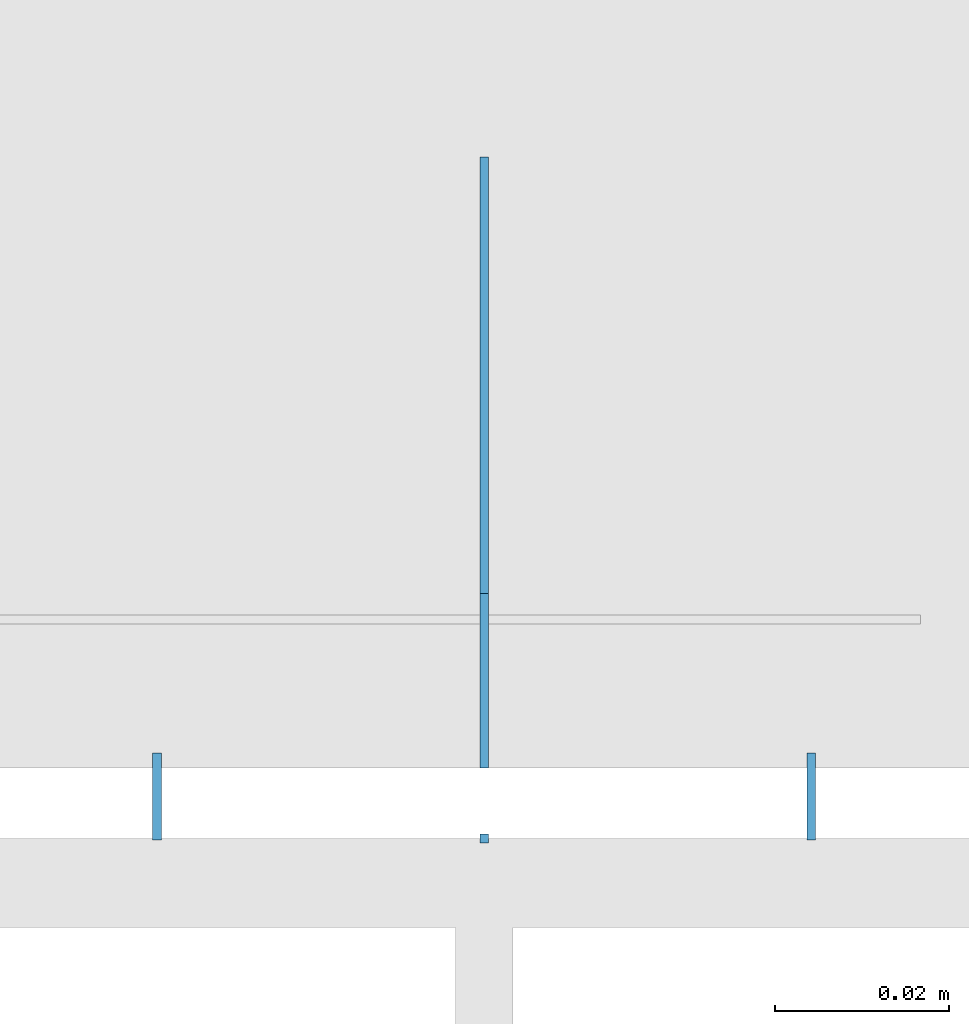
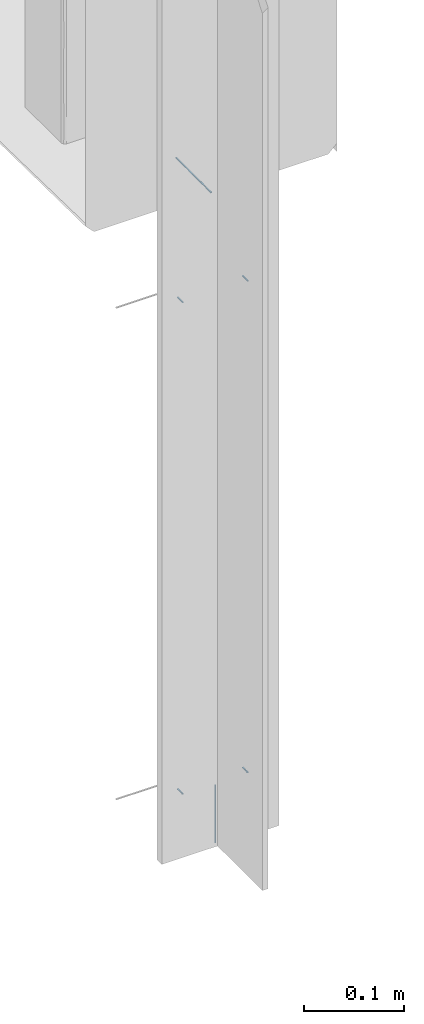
# One storey, part 57 of 186: 7 beams.
"""IFC4X3_ADD2 building model written with IfcOpenShell, lengths in millimetres."""

import ifcopenshell
import ifcopenshell.guid

model = None  # the IFC model being written
_history = None  # IfcOwnerHistory: only IFC2X3 demands one
_inside = {}  # id of a spatial element -> (the spatial element, [elements in it])
_under = {}  # id of a project, library or spatial element -> (it, [spatial elements below it])
_declared = {}  # id of a project -> (the project, [libraries it declares])
_typed = {}  # id of a type object -> (the type object, [elements of that type])
_made_of = {}  # id of a material, layer set ... -> (it, [elements and type objects made of it])


def new_model(schema):
    """Start an empty IFC model of exactly this schema.

    Asked for "IFC4X3", IfcOpenShell would pick the latest addendum, in which some entities
    have other attributes; the version numbers below select the first issue.
    IFC2X3 requires an IfcOwnerHistory on every rooted entity: one is made here for all.
    """
    global model, _history
    if schema == "IFC4X3":
        model = ifcopenshell.file(schema_version=(4, 3, 0, 0))
    else:
        model = ifcopenshell.file(schema=schema)
    _inside.clear()
    _under.clear()
    _declared.clear()
    _typed.clear()
    _made_of.clear()
    _history = None
    if model.schema == "IFC2X3":
        org = make("IfcOrganization", Name="unknown")
        user = make(
            "IfcPersonAndOrganization",
            ThePerson=make("IfcPerson", FamilyName="unknown"),
            TheOrganization=org,
        )
        app = make(
            "IfcApplication",
            ApplicationDeveloper=org,
            Version="unknown",
            ApplicationFullName="unknown",
            ApplicationIdentifier="unknown",
        )
        _history = make(
            "IfcOwnerHistory",
            OwningUser=user,
            OwningApplication=app,
            ChangeAction="ADDED",
            CreationDate=0,
        )
    return model


def make(cls, **values):
    """One entity of the class cls with the attributes given. An attribute that is None is left unset."""
    return model.create_entity(
        cls, **{name: value for name, value in values.items() if value is not None}
    )


def rooted(cls, **values):
    """An entity with a GlobalId (a new one), such as an element, a storey or a relation."""
    return make(cls, GlobalId=ifcopenshell.guid.new(), OwnerHistory=_history, **values)


def si_unit(unit_type, name, prefix=None):
    """IfcSIUnit, for example si_unit("LENGTHUNIT", "METRE", prefix="MILLI")."""
    return make("IfcSIUnit", UnitType=unit_type, Prefix=prefix, Name=name)


def assignment(units):
    """IfcUnitAssignment: the units of a project."""
    return None if units is None else make("IfcUnitAssignment", Units=units)


def point(xyz):
    """IfcCartesianPoint."""
    return None if xyz is None else make("IfcCartesianPoint", Coordinates=xyz)


def direction(xyz):
    """IfcDirection."""
    return None if xyz is None else make("IfcDirection", DirectionRatios=xyz)


def frame(location, z_axis=None, x_axis=None):
    """IfcAxis2Placement3D, a coordinate frame: its origin and axes. An axis left out is left unset."""
    return make(
        "IfcAxis2Placement3D",
        Location=point(location),
        Axis=direction(z_axis),
        RefDirection=direction(x_axis),
    )


def frame_2d(location, x_axis=None):
    """IfcAxis2Placement2D, a coordinate frame in the plane: its origin and x axis."""
    return make(
        "IfcAxis2Placement2D", Location=point(location), RefDirection=direction(x_axis)
    )


def origin_with_axes():
    """The frame at (0, 0, 0) with the z axis (0, 0, 1) and the x axis (1, 0, 0) written out."""
    return frame((0.0, 0.0, 0.0), z_axis=(0.0, 0.0, 1.0), x_axis=(1.0, 0.0, 0.0))


def place(relative_to, where):
    """IfcLocalPlacement: puts the frame where relative to a parent placement (None: the world)."""
    return make(
        "IfcLocalPlacement", PlacementRelTo=relative_to, RelativePlacement=where
    )


def context(
    kind, dimensions, precision=None, world=None, true_north=None, identifier=None
):
    """IfcGeometricRepresentationContext, for example the 3D "Model" context."""
    return make(
        "IfcGeometricRepresentationContext",
        ContextIdentifier=identifier,
        ContextType=kind,
        CoordinateSpaceDimension=dimensions,
        Precision=precision,
        WorldCoordinateSystem=world,
        TrueNorth=true_north,
    )


def subcontext(parent, identifier, kind, view, scale=None):
    """IfcGeometricRepresentationSubContext, for example "Body" below "Model"."""
    return make(
        "IfcGeometricRepresentationSubContext",
        ContextIdentifier=identifier,
        ContextType=kind,
        ParentContext=parent,
        TargetScale=scale,
        TargetView=view,
    )


def project(units=None, contexts=None):
    """IfcProject with its units and contexts."""
    return rooted(
        "IfcProject",
        Name="project",
        RepresentationContexts=contexts,
        UnitsInContext=assignment(units),
    )


def spatial(cls, under=None, at=None, **own):
    """A site, building, storey or space (cls), placed at a placement, below another one or the project."""
    s = rooted(cls, ObjectPlacement=at, **own)
    if under is not None:
        _under.setdefault(under.id(), (under, []))[1].append(s)
    return s


def profile(cls, at=None, kind="AREA", **sizes):
    """A parametric profile (cls). Its sizes go by their IFC names, for example OverallWidth=200.0."""
    return make(cls, ProfileType=kind, Position=at, **sizes)


def rectangle(**sizes):
    """IfcRectangleProfileDef."""
    return profile("IfcRectangleProfileDef", **sizes)


def extrude(swept, where, along, depth):
    """IfcExtrudedAreaSolid: the profile swept, set in the frame where, extruded along a direction by depth."""
    return make(
        "IfcExtrudedAreaSolid",
        SweptArea=swept,
        Position=where,
        ExtrudedDirection=direction(along),
        Depth=depth,
    )


def shape(context_of_items, identifier, shape_type, items):
    """IfcShapeRepresentation: the items that make up one representation, for example the "Body"."""
    return make(
        "IfcShapeRepresentation",
        ContextOfItems=context_of_items,
        RepresentationIdentifier=identifier,
        RepresentationType=shape_type,
        Items=items,
    )


def material(Name=None, Category=None):
    """IfcMaterial."""
    return make("IfcMaterial", Name=Name, Category=Category)


def made_of(thing, what):
    """Note that an element or type object is made of a material, layer set ...; save() writes the relation."""
    if what is not None:
        _made_of.setdefault(what.id(), (what, []))[1].append(thing)
    return thing


def element(
    cls,
    number,
    at=None,
    inside=None,
    cuts=None,
    type_object=None,
    material=None,
    context=None,
    identifier="Body",
    shape_type=None,
    held_by="IfcProductDefinitionShape",
    body=None,
    shapes=None,
    **own,
):
    """One element of the class cls, such as IfcWall. Its Tag is "e" and its number.

    at: its placement. inside: the storey or other place that contains it. cuts: it is an
    opening in that element (IfcRelVoidsElement). A single representation is given by context,
    identifier, shape_type and body (its items); several are given by shapes. held_by: the class
    of the entity that holds the representations. save() writes the other relations.
    """
    e = rooted(cls, Tag="e%d" % number, ObjectPlacement=at, **own)
    if body is not None:
        shapes = [shape(context, identifier, shape_type, body)]
    if shapes is not None:
        e.Representation = make(held_by, Representations=shapes)
    if inside is not None:
        _inside.setdefault(inside.id(), (inside, []))[1].append(e)
    if cuts is not None:
        rooted(
            "IfcRelVoidsElement", RelatingBuildingElement=cuts, RelatedOpeningElement=e
        )
    if type_object is not None:
        _typed.setdefault(type_object.id(), (type_object, []))[1].append(e)
    return made_of(e, material)


def aggregate(whole, parts):
    """IfcRelAggregates: a whole, such as a stair, and the parts it consists of."""
    return rooted("IfcRelAggregates", RelatingObject=whole, RelatedObjects=parts)


def save(model, path):
    """Write the relations noted so far, then the file.

    IfcRelAggregates (storeys below a building ...), IfcRelContainedInSpatialStructure (elements
    in a storey), IfcRelDefinesByType, IfcRelAssociatesMaterial and IfcRelDeclares: one each for
    every whole, place, type object, material and project.
    """
    for whole, parts in _under.values():
        aggregate(whole, parts)
    for where, things in _inside.values():
        rooted(
            "IfcRelContainedInSpatialStructure",
            RelatedElements=things,
            RelatingStructure=where,
        )
    for kind, things in _typed.values():
        rooted("IfcRelDefinesByType", RelatedObjects=things, RelatingType=kind)
    for what, things in _made_of.values():
        rooted("IfcRelAssociatesMaterial", RelatedObjects=things, RelatingMaterial=what)
    for by, libraries in _declared.values():
        rooted("IfcRelDeclares", RelatingContext=by, RelatedDefinitions=libraries)
    model.write(path)


model = new_model("IFC4X3_ADD2")

# Units and contexts
model_context = context("Model", 3, precision=1e-05, world=origin_with_axes(), true_north=direction((0.0, 1.0)))
body_context = subcontext(model_context, "Body", "Model", "MODEL_VIEW")
ifc_project = project(units=[si_unit("LENGTHUNIT", "METRE", prefix="MILLI"), si_unit("AREAUNIT", "SQUARE_METRE"), si_unit("VOLUMEUNIT", "CUBIC_METRE"), si_unit("PLANEANGLEUNIT", "RADIAN"), si_unit("TIMEUNIT", "SECOND"), si_unit("MASSUNIT", "GRAM")], contexts=[model_context])

# Site, building, storey
site_placement = place(None, origin_with_axes())
site = spatial("IfcSite", under=ifc_project, at=site_placement, Name="Site", CompositionType="ELEMENT")
building_placement = place(site_placement, origin_with_axes())
building = spatial("IfcBuilding", under=site, at=building_placement, Name="IFC Building Story")
storey_placement = place(building_placement, frame((0.0, 0.0, 4370.0), z_axis=(0.0, 0.0, 1.0), x_axis=(1.0, 0.0, 0.0)))
storey = spatial("IfcBuildingStorey", under=building, at=storey_placement, Name="ETAGE 10 (1)", Elevation=4370.0)

# Beams
ifc_material_1 = material(Name="STEEL/Accessory_invisible")
beam_1_placement = place(storey_placement, frame((10756.6886362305, 11.899963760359, 3352.0), z_axis=(-1.0, 0.0, 0.0), x_axis=(0.0, 0.0, 1.0)))
element("IfcBeam", 1, at=beam_1_placement, inside=storey, material=ifc_material_1, Name="ZW1", ObjectType="1*1 10", context=body_context, shape_type="SweptSolid", body=[
    extrude(rectangle(XDim=70.0000000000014, YDim=1.0, at=frame_2d((0.0, 5.95523630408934e-12), x_axis=(1.0, 0.0))), origin_with_axes(), (0.0, 0.0, 1.0), 1.0),
])
beam_2_placement = place(storey_placement, frame((10755.689, 65.0002483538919, 4105.402743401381), z_axis=(1.0, 0.0, 0.0), x_axis=(0.0, 0.0, -1.0)))
element("IfcBeam", 2, at=beam_2_placement, inside=storey, material=ifc_material_1, Name="ZW1", ObjectType="1*1 14", context=body_context, shape_type="SweptSolid", body=[
    extrude(rectangle(XDim=0.9999999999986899, YDim=50.0, at=frame_2d((0.0, 5.95523630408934e-12), x_axis=(1.0, 0.0))), origin_with_axes(), (0.0, 0.0, 1.0), 1.0),
])
ifc_material_2 = material(Name="STEEL/Accessory_invisible 261")
beam_3_placement = place(storey_placement, frame((10755.689, 30.00024835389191, 4105.402743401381), z_axis=(1.0, 0.0, 0.0), x_axis=(0.0, 0.0, -1.0)))
element("IfcBeam", 3, at=beam_3_placement, inside=storey, material=ifc_material_2, Name="PR10", ObjectType="1*1 13", context=body_context, shape_type="SweptSolid", body=[
    extrude(rectangle(XDim=0.9999999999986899, YDim=20.0, at=frame_2d((0.0, 5.95523630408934e-12), x_axis=(1.0, 0.0))), origin_with_axes(), (0.0, 0.0, 1.0), 1.0),
])
for number, where, z_axis, x_axis, name in (
    (4, (10718.1886362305, 16.6999637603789, 3389.5), (1.0, 0.0, 0.0), (0.0, 0.0, -1.0), "MP21"),
    (5, (10718.1886362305, 16.6999637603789, 3989.5), (1.0, 0.0, 0.0), (0.0, 0.0, -1.0), "MP21"),
    (6, (10793.1886362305, 16.6999637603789, 3989.5), (1.0, 0.0, 0.0), (0.0, 0.0, -1.0), "MP21"),
    (7, (10793.1886362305, 16.6999637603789, 3389.5), (1.0, 0.0, 0.0), (0.0, 0.0, -1.0), "MP21"),
):
    element("IfcBeam", number, at=place(storey_placement, frame(where, z_axis=z_axis, x_axis=x_axis)), inside=storey, material=ifc_material_1, Name=name, ObjectType="1*1 9", context=body_context, shape_type="SweptSolid", body=[
        extrude(rectangle(XDim=0.9999999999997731, YDim=10.0, at=frame_2d((0.0, 5.95523630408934e-12), x_axis=(1.0, 0.0))), origin_with_axes(), (0.0, 0.0, 1.0), 1.0),
    ])

save(model, "model.ifc")
